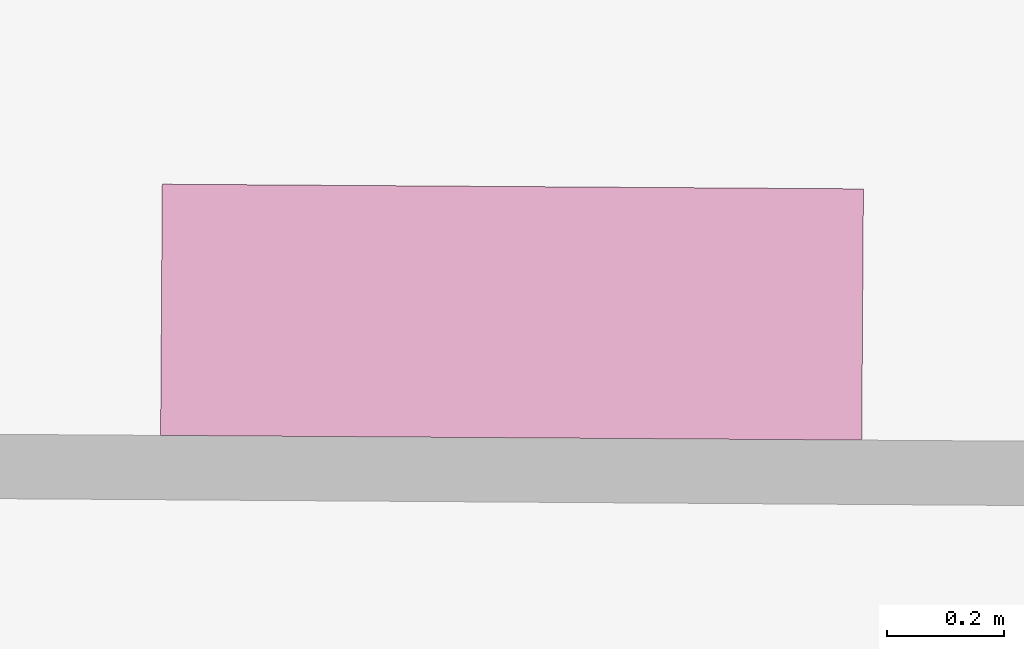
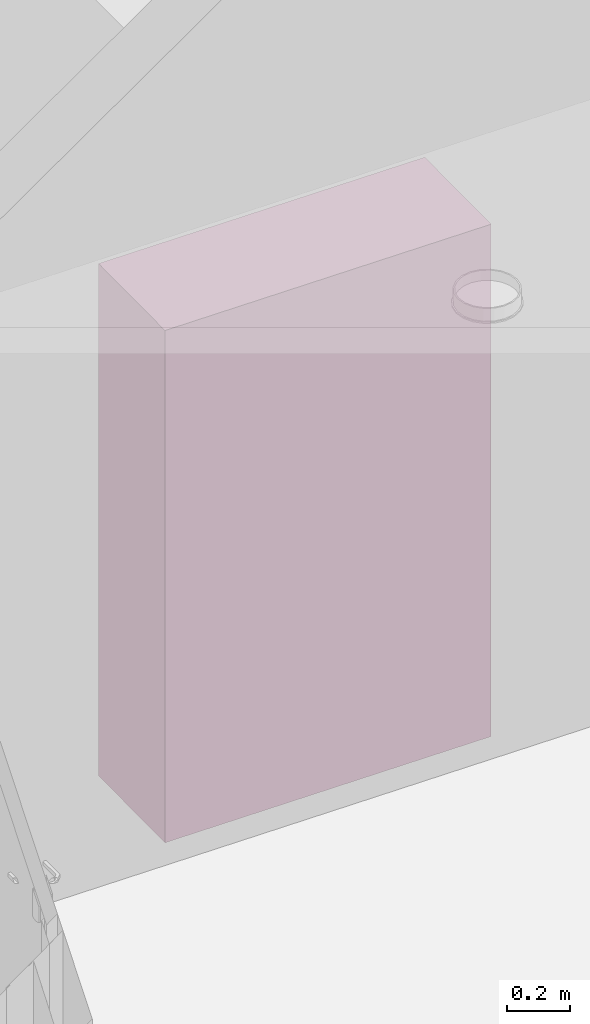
# One storey, part 96 of 128: 1 furnishing.
"""IFC2X3 building model written with IfcOpenShell, lengths in metres."""

from ifc_helpers import new_model, entity, si_unit, converted_unit, derived_unit, direction, frame, origin, origin_2d_with_axis, place, context, subcontext, project, spatial, rectangle, extrude, source, transform, mapped, material, type_object, type_shapes, element, save


model = new_model("IFC2X3")

# Units and contexts
model_context = context("Model", 3, precision=1e-05, world=origin(), true_north=direction((6.123031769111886e-17, 1.0)))
body_context = subcontext(model_context, "Body", "Model", "MODEL_VIEW")
ifc_project = project(units=[si_unit("LENGTHUNIT", "METRE"), si_unit("AREAUNIT", "SQUARE_METRE"), converted_unit("PLANEANGLEUNIT", "DEGREE", entity("IfcPlaneAngleMeasure", 0.017453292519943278), si_unit("PLANEANGLEUNIT", "RADIAN"), dimensions=[0, 0, 0, 0, 0, 0, 0]), derived_unit("THERMALTRANSMITTANCEUNIT", [(si_unit("MASSUNIT", "GRAM", prefix="KILO"), 1), (si_unit("THERMODYNAMICTEMPERATUREUNIT", "KELVIN"), -1), (si_unit("TIMEUNIT", "SECOND"), -3)])], contexts=[model_context])

# Site, building, storey
site_placement = place(None, origin())
site = spatial("IfcSite", under=ifc_project, at=site_placement, Name="Default", CompositionType="ELEMENT")
building_placement = place(site_placement, origin())
building = spatial("IfcBuilding", under=site, at=building_placement, CompositionType="ELEMENT")
storey_placement = place(building_placement, origin())
storey = spatial("IfcBuildingStorey", under=building, at=storey_placement, Name="00_RDC CAF", CompositionType="ELEMENT", Elevation=2.4982504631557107e-13)

# Furnishing
ifc_material = material(Name="ARC - Mo - Blanc")
furniture_type = type_object("IfcFurnitureType", Name="Mo_Armoire_Porte_Coulissante:Mo_Armoire_Haute_1200x430x2000mm", AssemblyPlace="NOTDEFINED", material=ifc_material)
shared_shape = source(origin(), body_context, "Body", "SweptSolid", [
    extrude(rectangle(XDim=1.200000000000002, YDim=0.43000000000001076, at=origin_2d_with_axis()), frame((0.04470032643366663, -0.2150000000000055, 0.0), z_axis=(0.0, 0.0, 1.0), x_axis=(-1.0, 0.0, 0.0)), (0.0, 0.0, 1.0), 2.0),
])
type_shapes(furniture_type, [shared_shape])
furnishing_placement = place(storey_placement, frame((32.450964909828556, 131.73399614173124, 0.0), z_axis=(0.0, 0.0, 1.0), x_axis=(-0.9999774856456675, 0.006710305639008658, 0.0)))
element("IfcFurnishingElement", 1, at=furnishing_placement, inside=storey, type_object=furniture_type, material=ifc_material, Name="Mo_Armoire_Porte_Coulissante:Mo_Armoire_Haute_1200x430x2000mm", ObjectType="Mo_Armoire_Porte_Coulissante:Mo_Armoire_Haute_1200x430x2000mm", context=body_context, shape_type="MappedRepresentation", body=[
    mapped(shared_shape, transform((0.0, 0.0, 0.0), scale=1.0)),
])

save(model, "model.ifc")
